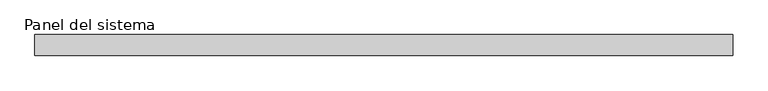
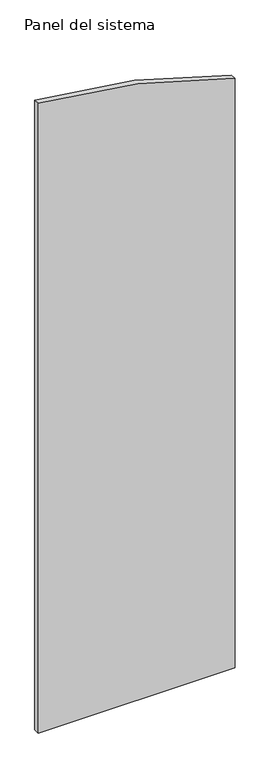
"""IFC4 building model written with IfcOpenShell, lengths in millimetres: plate geometry, Panel del sistema : HIANSA PANEL - PANELES DE CUBIERTA SIN TAPAJUNTA - EASY CUB 3GR - Esp. 30mm."""

import ifcopenshell
import ifcopenshell.guid

model = None  # the IFC model being written
_history = None  # IfcOwnerHistory: only IFC2X3 demands one
_inside = {}  # id of a spatial element -> (the spatial element, [elements in it])
_under = {}  # id of a project, library or spatial element -> (it, [spatial elements below it])
_declared = {}  # id of a project -> (the project, [libraries it declares])
_typed = {}  # id of a type object -> (the type object, [elements of that type])
_made_of = {}  # id of a material, layer set ... -> (it, [elements and type objects made of it])


def new_model(schema):
    """Start an empty IFC model of exactly this schema.

    Asked for "IFC4X3", IfcOpenShell would pick the latest addendum, in which some entities
    have other attributes; the version numbers below select the first issue.
    IFC2X3 requires an IfcOwnerHistory on every rooted entity: one is made here for all.
    """
    global model, _history
    if schema == "IFC4X3":
        model = ifcopenshell.file(schema_version=(4, 3, 0, 0))
    else:
        model = ifcopenshell.file(schema=schema)
    _inside.clear()
    _under.clear()
    _declared.clear()
    _typed.clear()
    _made_of.clear()
    _history = None
    if model.schema == "IFC2X3":
        org = make("IfcOrganization", Name="unknown")
        user = make(
            "IfcPersonAndOrganization",
            ThePerson=make("IfcPerson", FamilyName="unknown"),
            TheOrganization=org,
        )
        app = make(
            "IfcApplication",
            ApplicationDeveloper=org,
            Version="unknown",
            ApplicationFullName="unknown",
            ApplicationIdentifier="unknown",
        )
        _history = make(
            "IfcOwnerHistory",
            OwningUser=user,
            OwningApplication=app,
            ChangeAction="ADDED",
            CreationDate=0,
        )
    return model


def make(cls, **values):
    """One entity of the class cls with the attributes given. An attribute that is None is left unset."""
    return model.create_entity(
        cls, **{name: value for name, value in values.items() if value is not None}
    )


def rooted(cls, **values):
    """An entity with a GlobalId (a new one), such as an element, a storey or a relation."""
    return make(cls, GlobalId=ifcopenshell.guid.new(), OwnerHistory=_history, **values)


def si_unit(unit_type, name, prefix=None):
    """IfcSIUnit, for example si_unit("LENGTHUNIT", "METRE", prefix="MILLI")."""
    return make("IfcSIUnit", UnitType=unit_type, Prefix=prefix, Name=name)


def assignment(units):
    """IfcUnitAssignment: the units of a project."""
    return None if units is None else make("IfcUnitAssignment", Units=units)


def point(xyz):
    """IfcCartesianPoint."""
    return None if xyz is None else make("IfcCartesianPoint", Coordinates=xyz)


def direction(xyz):
    """IfcDirection."""
    return None if xyz is None else make("IfcDirection", DirectionRatios=xyz)


def frame(location, z_axis=None, x_axis=None):
    """IfcAxis2Placement3D, a coordinate frame: its origin and axes. An axis left out is left unset."""
    return make(
        "IfcAxis2Placement3D",
        Location=point(location),
        Axis=direction(z_axis),
        RefDirection=direction(x_axis),
    )


def frame_2d(location, x_axis=None):
    """IfcAxis2Placement2D, a coordinate frame in the plane: its origin and x axis."""
    return make(
        "IfcAxis2Placement2D", Location=point(location), RefDirection=direction(x_axis)
    )


def origin():
    """The frame at (0, 0, 0) with its axes left unset."""
    return frame((0.0, 0.0, 0.0))


def place(relative_to, where):
    """IfcLocalPlacement: puts the frame where relative to a parent placement (None: the world)."""
    return make(
        "IfcLocalPlacement", PlacementRelTo=relative_to, RelativePlacement=where
    )


def context(
    kind, dimensions, precision=None, world=None, true_north=None, identifier=None
):
    """IfcGeometricRepresentationContext, for example the 3D "Model" context."""
    return make(
        "IfcGeometricRepresentationContext",
        ContextIdentifier=identifier,
        ContextType=kind,
        CoordinateSpaceDimension=dimensions,
        Precision=precision,
        WorldCoordinateSystem=world,
        TrueNorth=true_north,
    )


def project(units=None, contexts=None):
    """IfcProject with its units and contexts."""
    return rooted(
        "IfcProject",
        Name="project",
        RepresentationContexts=contexts,
        UnitsInContext=assignment(units),
    )


def spatial(cls, under=None, at=None, **own):
    """A site, building, storey or space (cls), placed at a placement, below another one or the project."""
    s = rooted(cls, ObjectPlacement=at, **own)
    if under is not None:
        _under.setdefault(under.id(), (under, []))[1].append(s)
    return s


def polyline(points):
    """IfcPolyline through the points."""
    return make("IfcPolyline", Points=[point(p) for p in points])


def circle_curve(where, radius):
    """IfcCircle in the frame where."""
    return make("IfcCircle", Position=where, Radius=radius)


def trimmed(basis, trim1, trim2, sense, master):
    """IfcTrimmedCurve: the piece of a basis curve between two trims."""
    return make(
        "IfcTrimmedCurve",
        BasisCurve=basis,
        Trim1=trim1,
        Trim2=trim2,
        SenseAgreement=sense,
        MasterRepresentation=master,
    )


def segment(curve, same_sense, transition):
    """IfcCompositeCurveSegment."""
    return make(
        "IfcCompositeCurveSegment",
        Transition=transition,
        SameSense=same_sense,
        ParentCurve=curve,
    )


def composite_curve(segments, self_intersect=None):
    """IfcCompositeCurve: segments joined end to end."""
    return make("IfcCompositeCurve", Segments=segments, SelfIntersect=self_intersect)


def outline(outer, holes=None, kind="AREA"):
    """IfcArbitraryClosedProfileDef: a profile drawn as a closed curve; with holes, ...WithVoids."""
    if holes is None:
        return make("IfcArbitraryClosedProfileDef", ProfileType=kind, OuterCurve=outer)
    return make(
        "IfcArbitraryProfileDefWithVoids",
        ProfileType=kind,
        OuterCurve=outer,
        InnerCurves=holes,
    )


def extrude(swept, where, along, depth):
    """IfcExtrudedAreaSolid: the profile swept, set in the frame where, extruded along a direction by depth."""
    return make(
        "IfcExtrudedAreaSolid",
        SweptArea=swept,
        Position=where,
        ExtrudedDirection=direction(along),
        Depth=depth,
    )


def shape(context_of_items, identifier, shape_type, items):
    """IfcShapeRepresentation: the items that make up one representation, for example the "Body"."""
    return make(
        "IfcShapeRepresentation",
        ContextOfItems=context_of_items,
        RepresentationIdentifier=identifier,
        RepresentationType=shape_type,
        Items=items,
    )


def source(mapping_origin, context_of_items, identifier, shape_type, items):
    """IfcRepresentationMap: a shape defined once, which mapped items show again and again."""
    return make(
        "IfcRepresentationMap",
        MappingOrigin=mapping_origin,
        MappedRepresentation=shape(context_of_items, identifier, shape_type, items),
    )


def transform(
    local_origin,
    x_axis=None,
    y_axis=None,
    z_axis=None,
    scale=None,
    scale2=None,
    scale3=None,
    uniform=True,
):
    """IfcCartesianTransformationOperator3D, or its non-uniform kind. x_axis, y_axis, z_axis: its Axis1, 2, 3."""
    if uniform:
        return make(
            "IfcCartesianTransformationOperator3D",
            Axis1=direction(x_axis),
            Axis2=direction(y_axis),
            LocalOrigin=point(local_origin),
            Scale=scale,
            Axis3=direction(z_axis),
        )
    return make(
        "IfcCartesianTransformationOperator3DnonUniform",
        Axis1=direction(x_axis),
        Axis2=direction(y_axis),
        LocalOrigin=point(local_origin),
        Scale=scale,
        Axis3=direction(z_axis),
        Scale2=scale2,
        Scale3=scale3,
    )


def mapped(mapping_source, mapping_target):
    """IfcMappedItem: shows the shape of a source again, moved by a transform."""
    return make(
        "IfcMappedItem", MappingSource=mapping_source, MappingTarget=mapping_target
    )


def made_of(thing, what):
    """Note that an element or type object is made of a material, layer set ...; save() writes the relation."""
    if what is not None:
        _made_of.setdefault(what.id(), (what, []))[1].append(thing)
    return thing


def element(
    cls,
    number,
    at=None,
    inside=None,
    cuts=None,
    type_object=None,
    material=None,
    context=None,
    identifier="Body",
    shape_type=None,
    held_by="IfcProductDefinitionShape",
    body=None,
    shapes=None,
    **own,
):
    """One element of the class cls, such as IfcWall. Its Tag is "e" and its number.

    at: its placement. inside: the storey or other place that contains it. cuts: it is an
    opening in that element (IfcRelVoidsElement). A single representation is given by context,
    identifier, shape_type and body (its items); several are given by shapes. held_by: the class
    of the entity that holds the representations. save() writes the other relations.
    """
    e = rooted(cls, Tag="e%d" % number, ObjectPlacement=at, **own)
    if body is not None:
        shapes = [shape(context, identifier, shape_type, body)]
    if shapes is not None:
        e.Representation = make(held_by, Representations=shapes)
    if inside is not None:
        _inside.setdefault(inside.id(), (inside, []))[1].append(e)
    if cuts is not None:
        rooted(
            "IfcRelVoidsElement", RelatingBuildingElement=cuts, RelatedOpeningElement=e
        )
    if type_object is not None:
        _typed.setdefault(type_object.id(), (type_object, []))[1].append(e)
    return made_of(e, material)


def aggregate(whole, parts):
    """IfcRelAggregates: a whole, such as a stair, and the parts it consists of."""
    return rooted("IfcRelAggregates", RelatingObject=whole, RelatedObjects=parts)


def save(model, path):
    """Write the relations noted so far, then the file.

    IfcRelAggregates (storeys below a building ...), IfcRelContainedInSpatialStructure (elements
    in a storey), IfcRelDefinesByType, IfcRelAssociatesMaterial and IfcRelDeclares: one each for
    every whole, place, type object, material and project.
    """
    for whole, parts in _under.values():
        aggregate(whole, parts)
    for where, things in _inside.values():
        rooted(
            "IfcRelContainedInSpatialStructure",
            RelatedElements=things,
            RelatingStructure=where,
        )
    for kind, things in _typed.values():
        rooted("IfcRelDefinesByType", RelatedObjects=things, RelatingType=kind)
    for what, things in _made_of.values():
        rooted("IfcRelAssociatesMaterial", RelatedObjects=things, RelatingMaterial=what)
    for by, libraries in _declared.values():
        rooted("IfcRelDeclares", RelatingContext=by, RelatedDefinitions=libraries)
    model.write(path)


def panel_del_sistema_6badf2b4(model_context):
    return source(origin(), model_context, "Body", "SweptSolid", [
        extrude(outline(composite_curve([segment(polyline([(0.0, -500.0), (0.0, 500.0), (3166.9078881, 500.0)]), True, "CONTINUOUS"), segment(trimmed(circle_curve(frame_2d((-202.632582, -750.0000003)), 3593.9258451), [point((3166.9078881, 500.0))], [point((3382.5874921, -500.0))], False, "CARTESIAN"), True, "CONTINUOUS"), segment(polyline([(3382.5874921, -500.0), (0.0, -500.0)]), True, "CONTINUOUS")], self_intersect=False)), frame((0.0, 0.0, 0.0), z_axis=(0.0, 1.0, 0.0), x_axis=(0.0, 0.0, 1.0)), (0.0, 0.0, 1.0), 30.0),
    ])


if __name__ == "__main__":
    model = new_model("IFC4")
    model_context = context("Model", 3, world=origin())
    ifc_project = project(units=[si_unit("LENGTHUNIT", "METRE", prefix="MILLI")], contexts=[model_context])
    site = spatial("IfcSite", under=ifc_project)
    building = spatial("IfcBuilding", under=site)
    placement = place(None, origin())
    panel_del_sistema_shape = panel_del_sistema_6badf2b4(model_context)
    element("IfcPlate", 1, ObjectType="Panel del sistema : HIANSA PANEL - PANELES DE CUBIERTA SIN TAPAJUNTA - EASY CUB 3GR - Esp. 30mm", at=placement, inside=building, context=model_context, shape_type="MappedRepresentation", body=[
        mapped(panel_del_sistema_shape, transform((0.0, 0.0, 0.0), x_axis=(1.0, 0.0, 0.0), y_axis=(0.0, 1.0, 0.0), z_axis=(0.0, 0.0, 1.0))),
    ])
    save(model, "model.ifc")
